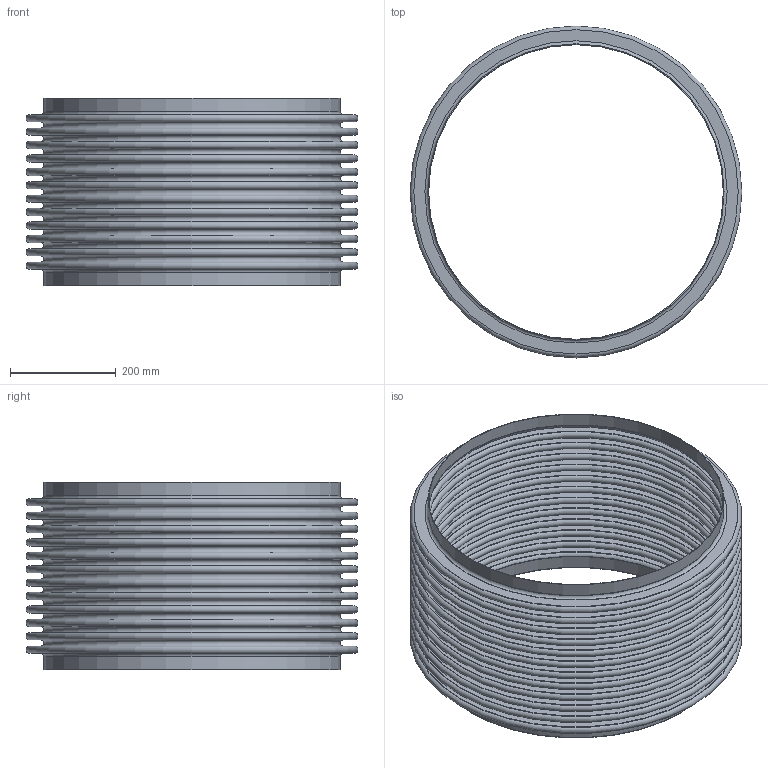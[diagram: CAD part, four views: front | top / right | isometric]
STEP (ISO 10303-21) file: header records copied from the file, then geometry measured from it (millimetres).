
FILE_DESCRIPTION(/* description */ (''),/* implementation_level */ '2;1');
FILE_NAME(/* name */ 'US-22-12-85L.stp',/* time_stamp */ '2026-07-21T11:18:45-05:00',/* author */ ('linda'),/* organization */ (''),/* preprocessor_version */ 'ST-DEVELOPER v20.1',/* originating_system */ 'Autodesk Inventor 2026',/* authorisation */ '');
FILE_SCHEMA (('AUTOMOTIVE_DESIGN { 1 0 10303 214 3 1 1 }'));
Length unit declared in the file: inch
Products named in the file (1): Part3
Bounding box: 628.65 x 628.65 x 355.6 mm (x, y, z)
Volume: 2344222.9 mm3; surface area: 3858380 mm2
Topology: 3 solids, 3 shells, 108 faces, 162 edges, 109 vertices
Faces by surface type: plane 54, torus 50, cylinder 4
Full cylindrical faces by diameter (mm): 558.8 x2, 561.238 x2
Entity records: 2667 total; most frequent: DIRECTION 538, CARTESIAN_POINT 380, ORIENTED_EDGE 324, AXIS2_PLACEMENT_3D 267, EDGE_LOOP 162, EDGE_CURVE 162, CIRCLE 158, STYLED_ITEM 111
